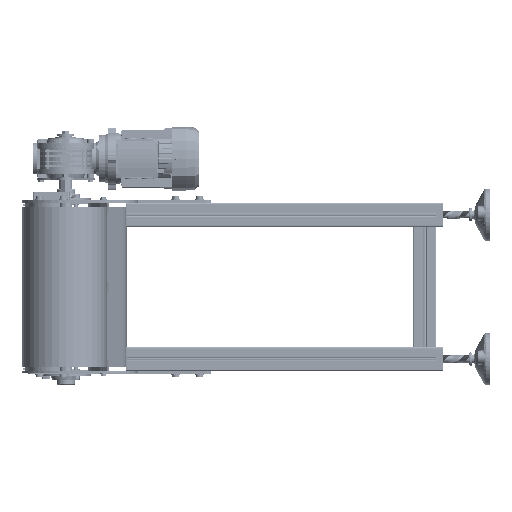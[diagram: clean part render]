
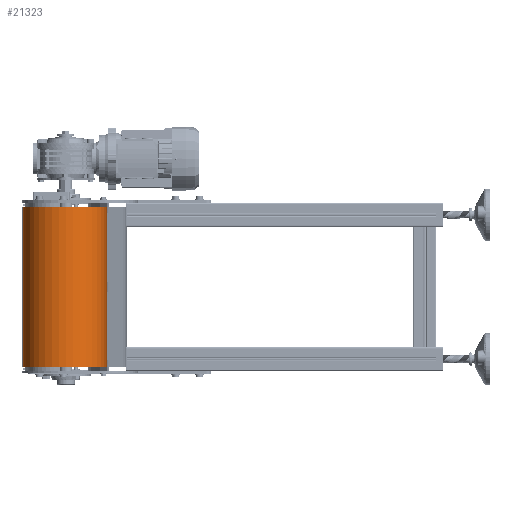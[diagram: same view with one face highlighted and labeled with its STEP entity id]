
A CAD part, left-side view. The second image highlights one B-rep face of the part: STEP entity #21323.
In plain terms, the highlighted free-form (B-spline) face has degree [1, 3] with [2, 28] control points.
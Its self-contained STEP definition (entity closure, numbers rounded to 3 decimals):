
#48 = CARTESIAN_POINT ( 'NONE',  ( -152.4, -75.305, 699.297 ) ) ;
#937 = CARTESIAN_POINT ( 'NONE',  ( 152.4, -155.148, 605.052 ) ) ;
#1747 = CARTESIAN_POINT ( 'NONE',  ( 152.4, -155.148, 605.052 ) ) ;
#2726 = CARTESIAN_POINT ( 'NONE',  ( -152.4, -64.311, 698.334 ) ) ;
#3322 = CARTESIAN_POINT ( 'NONE',  ( 152.4, 2.653, 623.491 ) ) ;
#6322 = CARTESIAN_POINT ( 'NONE',  ( 152.4, -151.777, 647.78 ) ) ;
#8371 = CIRCLE ( 'NONE', #78121, 79.58 ) ;
#8843 = EDGE_CURVE ( 'NONE', #40618, #103560, #166290, .T. ) ;
#9316 = EDGE_CURVE ( 'NONE', #11299, #68516, #8371, .T. ) ;
#11299 = VERTEX_POINT ( 'NONE', #30749 ) ;
#13181 = VECTOR ( 'NONE', #163103, 1000. ) ;
#13504 = ORIENTED_EDGE ( 'NONE', *, *, #9316, .F. ) ;
#14560 = CARTESIAN_POINT ( 'NONE',  ( -152.4, 2.174, 628.895 ) ) ;
#15470 = CARTESIAN_POINT ( 'NONE',  ( 152.4, -157.044, 615.7 ) ) ;
#17249 = CARTESIAN_POINT ( 'NONE',  ( 152.4, 2.456, 626.206 ) ) ;
#19017 = CARTESIAN_POINT ( 'NONE',  ( 152.4, 1.995, 630.235 ) ) ;
#19492 = CARTESIAN_POINT ( 'NONE',  ( 152.4, -155.148, 605.052 ) ) ;
#19917 = CARTESIAN_POINT ( 'NONE',  ( 152.4, -33.883, 686.882 ) ) ;
#21323 = ADVANCED_FACE ( 'NONE', ( #98228 ), #59824, .T. ) ;
#23234 = LINE ( 'NONE', #120531, #82751 ) ;
#26398 = CARTESIAN_POINT ( 'NONE',  ( -152.4, 2.456, 626.206 ) ) ;
#27286 = CARTESIAN_POINT ( 'NONE',  ( -152.4, -125.985, 682.488 ) ) ;
#29077 = CARTESIAN_POINT ( 'NONE',  ( -152.4, -107.261, 693.31 ) ) ;
#29989 = CARTESIAN_POINT ( 'NONE',  ( -152.4, -33.883, 686.882 ) ) ;
#30749 = CARTESIAN_POINT ( 'NONE',  ( -152.4, -155.148, 605.052 ) ) ;
#30896 = CARTESIAN_POINT ( 'NONE',  ( 152.4, -17.326, 672.97 ) ) ;
#31316 = ORIENTED_EDGE ( 'NONE', *, *, #108259, .F. ) ;
#34432 = VECTOR ( 'NONE', #169867, 1000. ) ;
#37483 = DIRECTION ( 'NONE',  ( 0., -0.985, -0.175 ) ) ;
#40093 = VERTEX_POINT ( 'NONE', #1747 ) ;
#40618 = VERTEX_POINT ( 'NONE', #3322 ) ;
#42721 = CARTESIAN_POINT ( 'NONE',  ( -152.4, -155.148, 605.052 ) ) ;
#44531 = CARTESIAN_POINT ( 'NONE',  ( 152.4, -75.305, 699.297 ) ) ;
#45423 = CARTESIAN_POINT ( 'NONE',  ( 152.4, -10.488, 664.306 ) ) ;
#47206 = CARTESIAN_POINT ( 'NONE',  ( 152.4, 2.392, 626.879 ) ) ;
#54593 = CARTESIAN_POINT ( 'NONE',  ( -152.4, 2.567, 624.859 ) ) ;
#55487 = CARTESIAN_POINT ( 'NONE',  ( -152.4, 0.791, 636.887 ) ) ;
#57278 = CARTESIAN_POINT ( 'NONE',  ( 152.4, -156.738, 626.73 ) ) ;
#58172 = CARTESIAN_POINT ( 'NONE',  ( 152.4, -147.124, 657.788 ) ) ;
#59824 = B_SPLINE_SURFACE_WITH_KNOTS ( 'NONE', 1, 3, ( 
 ( #42721, #164585, #81977, #153599, #82867, #168132, #27286, #29077, #124581, #48, #2726, #123708, #29989, #150948, #139089, #138215, #179101, #55487, #127256, #110971, #14560, #139992, #26398, #54593, #140888, #110072, #96445, #166349 ),
 ( #937, #15470, #57278, #6322, #58172, #103592, #86433, #117236, #113648, #44531, #141781, #129944, #19917, #30896, #45423, #75456, #100915, #145361, #129052, #19017, #115453, #47206, #17249, #142667, #60857, #102694, #114567, #170818 ) ),
 .UNSPECIFIED., .F., .F., .F.,
 ( 2, 2 ),
 ( 4, 2, 2, 2, 2, 2, 2, 2, 2, 2, 2, 2, 2, 4 ),
 ( 0., 1. ),
 ( 0.84, 0.86, 0.88, 0.9, 0.92, 0.94, 0.96, 0.98, 0.99, 0.995, 0.997, 0.999, 1., 1. ),
 .UNSPECIFIED. ) ;
#60857 = CARTESIAN_POINT ( 'NONE',  ( 152.4, 2.615, 624.164 ) ) ;
#62295 = LINE ( 'NONE', #117778, #13181 ) ;
#64096 = DIRECTION ( 'NONE',  ( 0., -0.985, -0.175 ) ) ;
#68516 = VERTEX_POINT ( 'NONE', #91086 ) ;
#70321 = ORIENTED_EDGE ( 'NONE', *, *, #77437, .T. ) ;
#75031 = DIRECTION ( 'NONE',  ( 1., 0., 0. ) ) ;
#75456 = CARTESIAN_POINT ( 'NONE',  ( 152.4, -3.225, 649.804 ) ) ;
#75918 = LINE ( 'NONE', #19492, #103346 ) ;
#77437 = EDGE_CURVE ( 'NONE', #162250, #40618, #62295, .T. ) ;
#78121 = AXIS2_PLACEMENT_3D ( 'NONE', #118670, #144088, #64096 ) ;
#81977 = CARTESIAN_POINT ( 'NONE',  ( -152.4, -156.738, 626.73 ) ) ;
#82751 = VECTOR ( 'NONE', #164100, 1000. ) ;
#82867 = CARTESIAN_POINT ( 'NONE',  ( -152.4, -147.124, 657.788 ) ) ;
#86433 = CARTESIAN_POINT ( 'NONE',  ( 152.4, -125.985, 682.488 ) ) ;
#91086 = CARTESIAN_POINT ( 'NONE',  ( -152.4, 2.652, 623.509 ) ) ;
#96445 = CARTESIAN_POINT ( 'NONE',  ( -152.4, 2.66, 623.378 ) ) ;
#98228 = FACE_OUTER_BOUND ( 'NONE', #114283, .T. ) ;
#98996 = CIRCLE ( 'NONE', #122215, 79.58 ) ;
#100915 = CARTESIAN_POINT ( 'NONE',  ( 152.4, -1.298, 644.723 ) ) ;
#102694 = CARTESIAN_POINT ( 'NONE',  ( 152.4, 2.656, 623.441 ) ) ;
#103346 = VECTOR ( 'NONE', #75031, 1000. ) ;
#103560 = VERTEX_POINT ( 'NONE', #152315 ) ;
#103592 = CARTESIAN_POINT ( 'NONE',  ( 152.4, -134.224, 675.146 ) ) ;
#103847 = ORIENTED_EDGE ( 'NONE', *, *, #132681, .T. ) ;
#108259 = EDGE_CURVE ( 'NONE', #68516, #103560, #23234, .T. ) ;
#110072 = CARTESIAN_POINT ( 'NONE',  ( -152.4, 2.656, 623.441 ) ) ;
#110971 = CARTESIAN_POINT ( 'NONE',  ( -152.4, 1.995, 630.235 ) ) ;
#113648 = CARTESIAN_POINT ( 'NONE',  ( 152.4, -96.785, 696.785 ) ) ;
#114283 = EDGE_LOOP ( 'NONE', ( #70321, #170022, #31316, #13504, #103847, #124378 ) ) ;
#114567 = CARTESIAN_POINT ( 'NONE',  ( 152.4, 2.66, 623.378 ) ) ;
#115453 = CARTESIAN_POINT ( 'NONE',  ( 152.4, 2.174, 628.895 ) ) ;
#117236 = CARTESIAN_POINT ( 'NONE',  ( 152.4, -107.261, 693.31 ) ) ;
#117778 = CARTESIAN_POINT ( 'NONE',  ( 152.4, 2.652, 623.509 ) ) ;
#118670 = CARTESIAN_POINT ( 'NONE',  ( -152.4, -76.8, 619. ) ) ;
#120531 = CARTESIAN_POINT ( 'NONE',  ( -152.4, 2.652, 623.509 ) ) ;
#122215 = AXIS2_PLACEMENT_3D ( 'NONE', #146585, #145676, #37483 ) ;
#123708 = CARTESIAN_POINT ( 'NONE',  ( -152.4, -43.595, 692.125 ) ) ;
#124378 = ORIENTED_EDGE ( 'NONE', *, *, #144781, .T. ) ;
#124529 = CARTESIAN_POINT ( 'NONE',  ( 0., 2.653, 623.491 ) ) ;
#124581 = CARTESIAN_POINT ( 'NONE',  ( -152.4, -96.785, 696.785 ) ) ;
#127256 = CARTESIAN_POINT ( 'NONE',  ( -152.4, 1.354, 634.239 ) ) ;
#129052 = CARTESIAN_POINT ( 'NONE',  ( 152.4, 1.354, 634.239 ) ) ;
#129944 = CARTESIAN_POINT ( 'NONE',  ( 152.4, -43.595, 692.125 ) ) ;
#132681 = EDGE_CURVE ( 'NONE', #11299, #40093, #75918, .T. ) ;
#138215 = CARTESIAN_POINT ( 'NONE',  ( -152.4, -3.225, 649.804 ) ) ;
#139089 = CARTESIAN_POINT ( 'NONE',  ( -152.4, -10.488, 664.306 ) ) ;
#139992 = CARTESIAN_POINT ( 'NONE',  ( -152.4, 2.392, 626.879 ) ) ;
#140888 = CARTESIAN_POINT ( 'NONE',  ( -152.4, 2.615, 624.164 ) ) ;
#141781 = CARTESIAN_POINT ( 'NONE',  ( 152.4, -64.311, 698.334 ) ) ;
#142667 = CARTESIAN_POINT ( 'NONE',  ( 152.4, 2.567, 624.859 ) ) ;
#144088 = DIRECTION ( 'NONE',  ( -1., 0., 0. ) ) ;
#144781 = EDGE_CURVE ( 'NONE', #40093, #162250, #98996, .T. ) ;
#145361 = CARTESIAN_POINT ( 'NONE',  ( 152.4, 0.791, 636.887 ) ) ;
#145676 = DIRECTION ( 'NONE',  ( -1., 0., 0. ) ) ;
#146585 = CARTESIAN_POINT ( 'NONE',  ( 152.4, -76.8, 619. ) ) ;
#150948 = CARTESIAN_POINT ( 'NONE',  ( -152.4, -17.326, 672.97 ) ) ;
#152315 = CARTESIAN_POINT ( 'NONE',  ( -152.4, 2.653, 623.491 ) ) ;
#153599 = CARTESIAN_POINT ( 'NONE',  ( -152.4, -151.777, 647.78 ) ) ;
#162250 = VERTEX_POINT ( 'NONE', #164649 ) ;
#163103 = DIRECTION ( 'NONE',  ( 0., 0.057, -0.998 ) ) ;
#164100 = DIRECTION ( 'NONE',  ( 0., 0.057, -0.998 ) ) ;
#164585 = CARTESIAN_POINT ( 'NONE',  ( -152.4, -157.044, 615.7 ) ) ;
#164649 = CARTESIAN_POINT ( 'NONE',  ( 152.4, 2.652, 623.509 ) ) ;
#166290 = LINE ( 'NONE', #124529, #34432 ) ;
#166349 = CARTESIAN_POINT ( 'NONE',  ( -152.4, 2.663, 623.31 ) ) ;
#168132 = CARTESIAN_POINT ( 'NONE',  ( -152.4, -134.224, 675.146 ) ) ;
#169867 = DIRECTION ( 'NONE',  ( -1., 0., 0. ) ) ;
#170022 = ORIENTED_EDGE ( 'NONE', *, *, #8843, .T. ) ;
#170818 = CARTESIAN_POINT ( 'NONE',  ( 152.4, 2.663, 623.31 ) ) ;
#179101 = CARTESIAN_POINT ( 'NONE',  ( -152.4, -1.298, 644.723 ) ) ;
